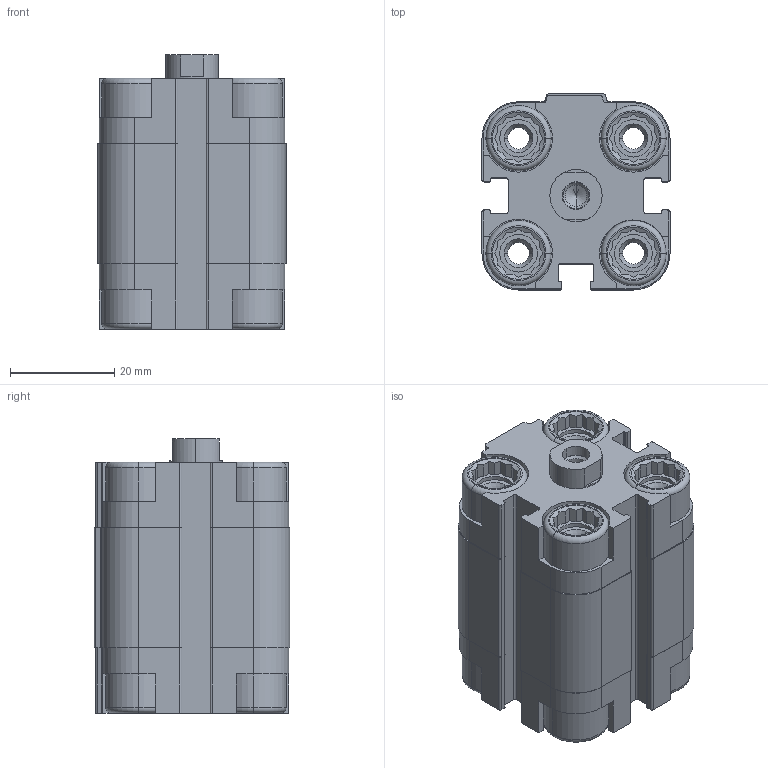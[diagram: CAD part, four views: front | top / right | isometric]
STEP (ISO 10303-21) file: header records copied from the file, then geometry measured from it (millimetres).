
FILE_DESCRIPTION (( 'STEP AP203' ), '1' );
FILE_NAME ('CDVU20-10F.STEP', '2020-03-30T14:54:37', ( '' ), ( '' ), 'SwSTEP 2.0', 'SolidWorks 2019', '' );
FILE_SCHEMA (( 'CONFIG_CONTROL_DESIGN' ));
Length unit declared in the file: millimetre
Products named in the file (1): CDVU20-10F
Bounding box: 36 x 37.5 x 52.5 mm (x, y, z)
Volume: 46445.9 mm3; surface area: 21517.9 mm2
Topology: 2 solids, 2 shells, 593 faces, 1564 edges, 1011 vertices
Faces by surface type: plane 353, cylinder 178, cone 46, torus 16
Entity records: 18483 total; most frequent: CARTESIAN_POINT 3739, ORIENTED_EDGE 3116, DIRECTION 2986, EDGE_CURVE 1558, AXIS2_PLACEMENT_3D 1026, VERTEX_POINT 1011, VECTOR 934, LINE 934
